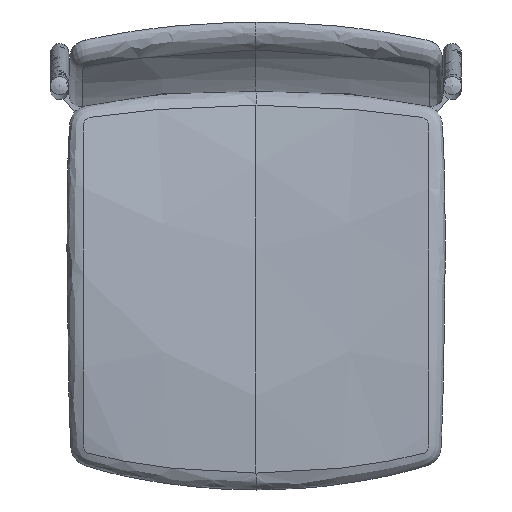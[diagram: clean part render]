
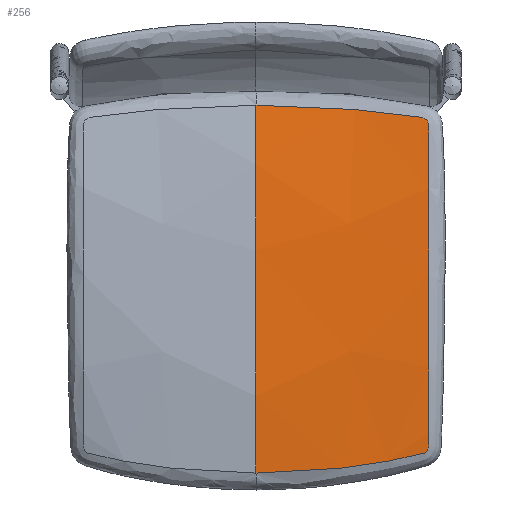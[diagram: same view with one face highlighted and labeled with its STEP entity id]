
A CAD part, top view. The second image highlights one B-rep face of the part: STEP entity #256.
In plain terms, the highlighted free-form (B-spline) face has degree [3, 3] with [6, 5] control points.
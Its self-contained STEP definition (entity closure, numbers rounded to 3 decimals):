
#20=B_SPLINE_SURFACE_WITH_KNOTS('',3,3,((#3264,#3265,#3266,#3267,#3268),
(#3269,#3270,#3271,#3272,#3273),(#3274,#3275,#3276,#3277,#3278),(#3279,
#3280,#3281,#3282,#3283),(#3284,#3285,#3286,#3287,#3288),(#3289,#3290,#3291,
#3292,#3293)),.UNSPECIFIED.,.F.,.F.,.F.,(4,1,1,4),(4,1,4),(0.,150.405,
300.811,451.216),(0.,113.023,226.045),
 .UNSPECIFIED.);
#256=ADVANCED_FACE('',(#330),#20,.T.);
#330=FACE_OUTER_BOUND('',#404,.T.);
#404=EDGE_LOOP('',(#625,#626));
#625=ORIENTED_EDGE('',*,*,#816,.F.);
#626=ORIENTED_EDGE('',*,*,#819,.F.);
#816=EDGE_CURVE('',#1046,#1045,#939,.T.);
#819=EDGE_CURVE('',#1045,#1046,#942,.T.);
#939=B_SPLINE_CURVE_WITH_KNOTS('',3,(#3892,#3893,#3894,#3895,#3896,#3897),
 .UNSPECIFIED.,.F.,.F.,(4,1,1,4),(14.636,150.405,300.811,
436.736),.UNSPECIFIED.);
#942=B_SPLINE_CURVE_WITH_KNOTS('',3,(#3968,#3969,#3970,#3971,#3972,#3973,
#3974,#3975,#3976,#3977,#3978,#3979,#3980,#3981,#3982,#3983,#3984,#3985,
#3986,#3987,#3988,#3989,#3990,#3991,#3992,#3993,#3994,#3995,#3996,#3997,
#3998,#3999,#4000,#4001,#4002,#4003,#4004,#4005,#4006,#4007,#4008,#4009,
#4010,#4011,#4012,#4013,#4014,#4015,#4016,#4017,#4018,#4019,#4020,#4021,
#4022,#4023,#4024,#4025,#4026,#4027,#4028,#4029,#4030,#4031,#4032,#4033),
 .UNSPECIFIED.,.F.,.F.,(4,2,2,2,1,1,1,2,2,2,2,2,1,1,1,2,2,2,2,2,2,2,2,2,
1,1,1,2,2,2,2,2,1,1,1,2,2,2,4),(-834.547,-732.977,-707.585,
-682.192,-634.077,-631.407,-628.738,
-626.069,-623.399,-620.73,-618.061,
-615.391,-612.722,-610.053,-607.384,
-561.831,-513.608,-489.497,-465.386,
-417.164,-368.942,-344.831,-320.72,
-272.498,-226.987,-224.275,-221.564,
-218.853,-216.141,-213.43,-210.718,
-208.007,-205.295,-202.584,-199.872,
-151.938,-126.615,-101.292,0.),.UNSPECIFIED.);
#1045=VERTEX_POINT('',#3884);
#1046=VERTEX_POINT('',#3885);
#3264=CARTESIAN_POINT('',(222.5,-257.5,447.92));
#3265=CARTESIAN_POINT('',(186.336,-267.419,456.436));
#3266=CARTESIAN_POINT('',(112.582,-282.432,461.217));
#3267=CARTESIAN_POINT('',(37.527,-287.459,461.479));
#3268=CARTESIAN_POINT('',(0.,-287.459,461.479));
#3269=CARTESIAN_POINT('',(222.5,-210.234,456.665));
#3270=CARTESIAN_POINT('',(186.401,-218.252,466.09));
#3271=CARTESIAN_POINT('',(112.677,-230.383,469.207));
#3272=CARTESIAN_POINT('',(37.559,-234.444,468.909));
#3273=CARTESIAN_POINT('',(0.,-234.444,468.909));
#3274=CARTESIAN_POINT('',(222.5,-115.677,460.522));
#3275=CARTESIAN_POINT('',(186.531,-119.935,467.649));
#3276=CARTESIAN_POINT('',(112.867,-126.362,463.263));
#3277=CARTESIAN_POINT('',(37.622,-128.511,461.788));
#3278=CARTESIAN_POINT('',(0.,-128.511,461.788));
#3279=CARTESIAN_POINT('',(222.5,26.117,455.406));
#3280=CARTESIAN_POINT('',(186.726,27.366,458.741));
#3281=CARTESIAN_POINT('',(113.151,29.293,448.584));
#3282=CARTESIAN_POINT('',(37.717,29.944,445.172));
#3283=CARTESIAN_POINT('',(0.,29.944,445.172));
#3284=CARTESIAN_POINT('',(222.5,120.418,444.736));
#3285=CARTESIAN_POINT('',(186.856,125.229,445.319));
#3286=CARTESIAN_POINT('',(113.341,132.56,434.981));
#3287=CARTESIAN_POINT('',(37.78,135.024,430.165));
#3288=CARTESIAN_POINT('',(0.,135.024,430.165));
#3289=CARTESIAN_POINT('',(222.5,167.5,432.588));
#3290=CARTESIAN_POINT('',(186.92,174.063,429.741));
#3291=CARTESIAN_POINT('',(113.436,184.054,417.229));
#3292=CARTESIAN_POINT('',(37.812,187.409,411.683));
#3293=CARTESIAN_POINT('',(0.,187.409,411.683));
#3884=CARTESIAN_POINT('',(0.,172.275,416.725));
#3885=CARTESIAN_POINT('',(0.,-271.984,463.345));
#3892=CARTESIAN_POINT('',(0.,-271.984,463.345));
#3893=CARTESIAN_POINT('',(0.,-224.136,468.206));
#3894=CARTESIAN_POINT('',(0.,-123.372,461.249));
#3895=CARTESIAN_POINT('',(0.,24.859,445.705));
#3896=CARTESIAN_POINT('',(0.,124.906,431.601));
#3897=CARTESIAN_POINT('',(0.,172.275,416.725));
#3968=CARTESIAN_POINT('',(0.,172.275,416.725));
#3969=CARTESIAN_POINT('',(33.428,172.274,416.725));
#3970=CARTESIAN_POINT('',(66.833,171.067,418.808));
#3971=CARTESIAN_POINT('',(108.273,168.045,423.155));
#3972=CARTESIAN_POINT('',(116.546,167.365,424.119));
#3973=CARTESIAN_POINT('',(133.064,165.851,426.169));
#3974=CARTESIAN_POINT('',(141.303,165.018,427.245));
#3975=CARTESIAN_POINT('',(165.179,162.377,430.343));
#3976=CARTESIAN_POINT('',(181.515,160.261,432.451));
#3977=CARTESIAN_POINT('',(199.038,157.674,434.137));
#3978=CARTESIAN_POINT('',(200.949,157.297,434.337));
#3979=CARTESIAN_POINT('',(202.303,156.803,434.534));
#3980=CARTESIAN_POINT('',(203.554,156.216,434.745));
#3981=CARTESIAN_POINT('',(204.158,155.865,434.863));
#3982=CARTESIAN_POINT('',(205.273,155.048,435.12));
#3983=CARTESIAN_POINT('',(205.785,154.581,435.26));
#3984=CARTESIAN_POINT('',(206.691,153.546,435.555));
#3985=CARTESIAN_POINT('',(207.084,152.978,435.71));
#3986=CARTESIAN_POINT('',(207.737,151.775,436.029));
#3987=CARTESIAN_POINT('',(207.999,151.137,436.193));
#3988=CARTESIAN_POINT('',(208.399,149.838,436.519));
#3989=CARTESIAN_POINT('',(208.689,148.451,436.857));
#3990=CARTESIAN_POINT('',(208.776,146.557,437.302));
#3991=CARTESIAN_POINT('',(208.742,129.822,441.126));
#3992=CARTESIAN_POINT('',(208.749,114.125,444.006));
#3993=CARTESIAN_POINT('',(208.73,83.211,448.722));
#3994=CARTESIAN_POINT('',(208.724,67.267,450.629));
#3995=CARTESIAN_POINT('',(208.712,43.289,453.027));
#3996=CARTESIAN_POINT('',(208.709,35.291,453.748));
#3997=CARTESIAN_POINT('',(208.701,19.285,455.088));
#3998=CARTESIAN_POINT('',(208.697,11.276,455.707));
#3999=CARTESIAN_POINT('',(208.686,-12.757,457.414));
#4000=CARTESIAN_POINT('',(208.678,-28.794,458.35));
#4001=CARTESIAN_POINT('',(208.663,-60.887,459.815));
#4002=CARTESIAN_POINT('',(208.656,-76.942,460.344));
#4003=CARTESIAN_POINT('',(208.644,-101.031,460.833));
#4004=CARTESIAN_POINT('',(208.641,-109.063,460.945));
#4005=CARTESIAN_POINT('',(208.633,-125.124,461.068));
#4006=CARTESIAN_POINT('',(208.629,-133.157,461.078));
#4007=CARTESIAN_POINT('',(208.618,-157.252,460.877));
#4008=CARTESIAN_POINT('',(208.609,-173.304,460.433));
#4009=CARTESIAN_POINT('',(208.599,-204.505,458.545));
#4010=CARTESIAN_POINT('',(208.578,-220.395,457.101));
#4011=CARTESIAN_POINT('',(208.596,-237.426,454.773));
#4012=CARTESIAN_POINT('',(208.506,-239.362,454.519));
#4013=CARTESIAN_POINT('',(208.218,-240.795,454.378));
#4014=CARTESIAN_POINT('',(207.826,-242.142,454.27));
#4015=CARTESIAN_POINT('',(207.57,-242.807,454.23));
#4016=CARTESIAN_POINT('',(206.935,-244.072,454.185));
#4017=CARTESIAN_POINT('',(206.555,-244.674,454.18));
#4018=CARTESIAN_POINT('',(205.68,-245.787,454.206));
#4019=CARTESIAN_POINT('',(205.185,-246.298,454.238));
#4020=CARTESIAN_POINT('',(204.107,-247.21,454.334));
#4021=CARTESIAN_POINT('',(203.522,-247.613,454.4));
#4022=CARTESIAN_POINT('',(202.306,-248.306,454.554));
#4023=CARTESIAN_POINT('',(200.982,-248.912,454.74));
#4024=CARTESIAN_POINT('',(199.118,-249.435,455.046));
#4025=CARTESIAN_POINT('',(181.911,-253.338,457.888));
#4026=CARTESIAN_POINT('',(165.65,-256.584,459.503));
#4027=CARTESIAN_POINT('',(141.78,-260.666,461.076));
#4028=CARTESIAN_POINT('',(133.518,-261.96,461.471));
#4029=CARTESIAN_POINT('',(116.939,-264.316,462.095));
#4030=CARTESIAN_POINT('',(108.632,-265.377,462.33));
#4031=CARTESIAN_POINT('',(67.022,-270.093,463.307));
#4032=CARTESIAN_POINT('',(33.509,-271.984,463.344));
#4033=CARTESIAN_POINT('',(0.,-271.984,463.345));
